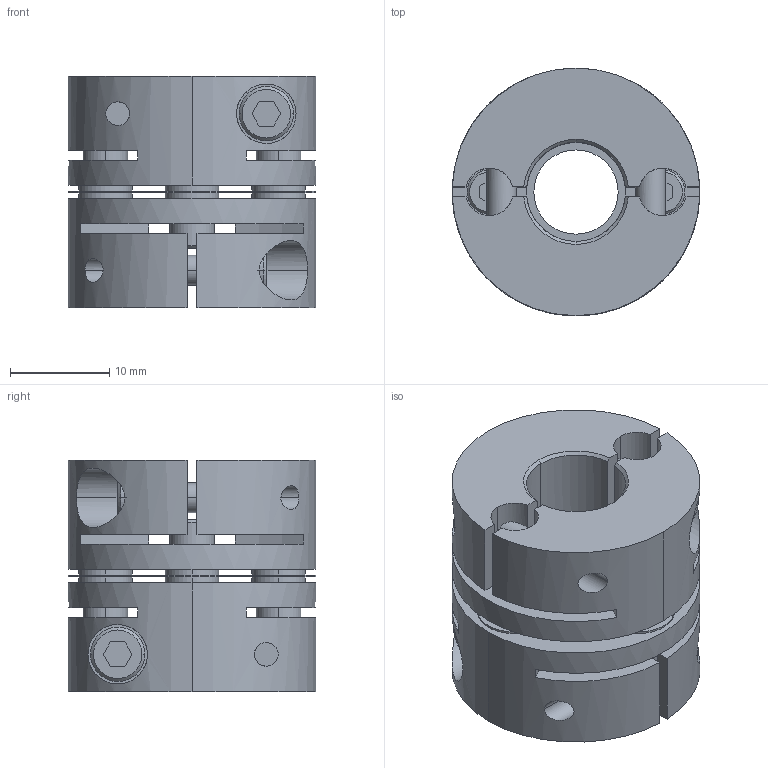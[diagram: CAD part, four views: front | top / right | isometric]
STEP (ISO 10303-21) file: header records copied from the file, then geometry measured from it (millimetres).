
FILE_DESCRIPTION((''),'2;1');
FILE_NAME('LAS-25C-10×10.stp','2011-08-10T10:20:41',(''),(''),'AutoCAD STEP 2000i','AutoCAD 2000i',', , ');
FILE_SCHEMA(('CONFIG_CONTROL_DESIGN'));
Length unit declared in the file: millimetre
Products named in the file (5): LAS-25C-6×6; 忣兜1; LA-2502-D06-1; LA-2502-D06; LAS25-ITA
Assembly tree (4 placements, depth 2):
  LAS-25C-6×6
    忣兜1
    LA-2502-D06-1
    LA-2502-D06
    LAS25-ITA
Bounding box: 25 x 25 x 23.4 mm (x, y, z)
Volume: 7877.9 mm3; surface area: 6734.6 mm2
Topology: 1 solids, 1 shells, 244 faces, 648 edges, 424 vertices
Faces by surface type: plane 112, cylinder 104, cone 28
Entity records: 8499 total; most frequent: CARTESIAN_POINT 2121, DIRECTION 1326, ORIENTED_EDGE 1296, EDGE_CURVE 648, AXIS2_PLACEMENT_3D 485, VERTEX_POINT 424, VECTOR 356, LINE 356
